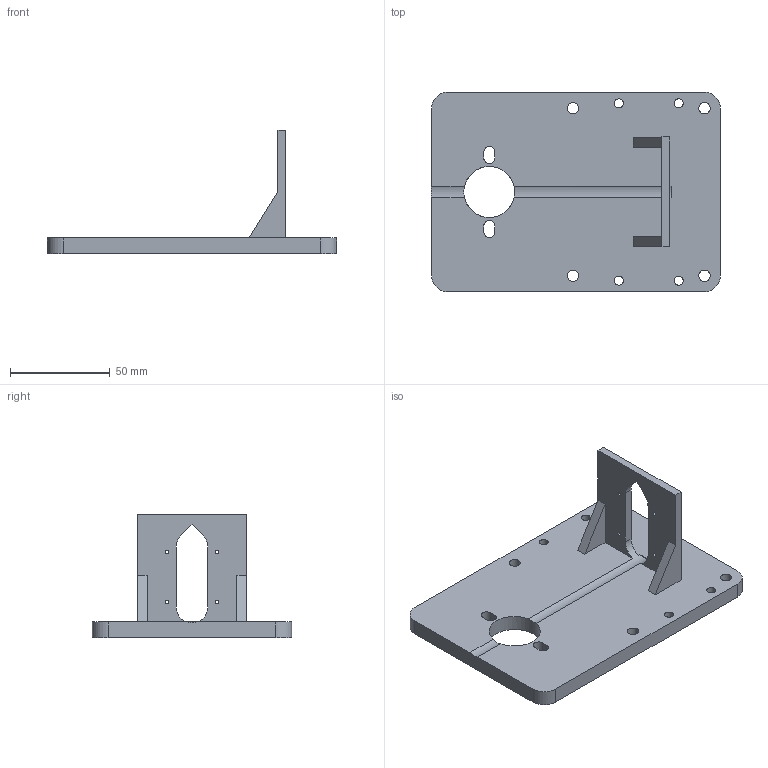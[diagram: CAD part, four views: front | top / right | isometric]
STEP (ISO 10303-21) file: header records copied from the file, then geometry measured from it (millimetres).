
FILE_DESCRIPTION(('FreeCAD Model'),'2;1');
FILE_NAME('Open CASCADE Shape Model','2026-11-20T13:18:52',('FreeCAD'),( 'FreeCAD'),'Open CASCADE STEP processor 7.8','FreeCAD','Unknown');
FILE_SCHEMA(('AUTOMOTIVE_DESIGN { 1 0 10303 214 1 1 1 1 }'));
Length unit declared in the file: millimetre
Products named in the file (1): Open CASCADE STEP translator 7.8 1
Bounding box: 145 x 100 x 62 mm (x, y, z)
Volume: 120044.2 mm3; surface area: 39307.2 mm2
Topology: 1 solids, 1 shells, 49 faces, 153 edges, 103 vertices
Faces by surface type: cylinder 25, plane 24
Full cylindrical faces by diameter (mm): 1.8 x4, 4.5 x4, 5.7 x4, 25.6 x1
Entity records: 1836 total; most frequent: CARTESIAN_POINT 350, ORIENTED_EDGE 306, DIRECTION 304, EDGE_CURVE 153, AXIS2_PLACEMENT_3D 105, VERTEX_POINT 103, LINE 94, VECTOR 94
